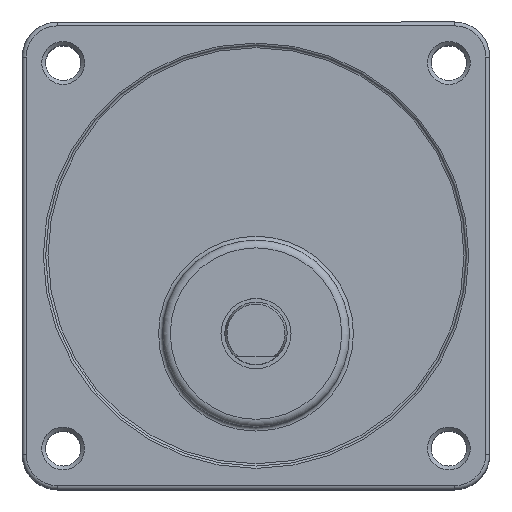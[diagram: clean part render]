
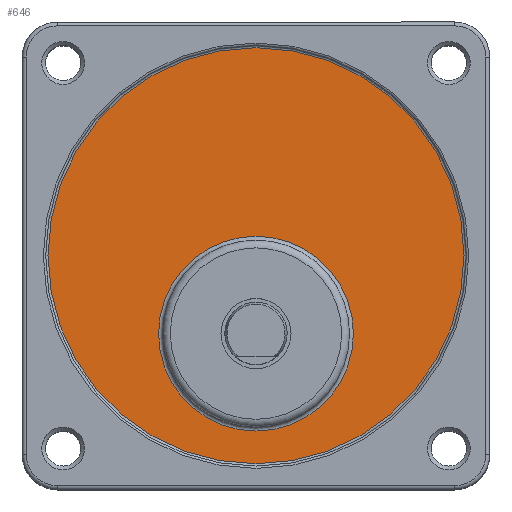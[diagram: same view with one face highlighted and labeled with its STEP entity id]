
A CAD part, top view. The second image highlights one B-rep face of the part: STEP entity #646.
In plain terms, the highlighted planar face has unit normal (0, 0, 1).
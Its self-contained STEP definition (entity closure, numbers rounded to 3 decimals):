
#595=CARTESIAN_POINT('',(42.5,20.0,39.2));
#596=VERTEX_POINT('',#595);
#597=CARTESIAN_POINT('',(30.,20.0,39.2));
#598=DIRECTION('',(0.0,0.0,1.0));
#599=DIRECTION('',(-1.0,0.0,0.0));
#600=AXIS2_PLACEMENT_3D('',#597,#598,#599);
#601=CIRCLE('',#600,12.5);
#602=EDGE_CURVE('',#596,#596,#601,.T.);
#627=CARTESIAN_POINT('',(30.,30.0,39.2));
#628=DIRECTION('',(0.0,0.0,-1.0));
#629=DIRECTION('',(-1.0,0.0,0.0));
#630=AXIS2_PLACEMENT_3D('',#627,#628,#629);
#631=PLANE('',#630);
#632=CARTESIAN_POINT('',(56.699,30.0,39.2));
#633=VERTEX_POINT('',#632);
#634=CARTESIAN_POINT('',(30.,30.0,39.2));
#635=DIRECTION('',(0.0,0.0,-1.0));
#636=DIRECTION('',(-1.0,0.0,0.0));
#637=AXIS2_PLACEMENT_3D('',#634,#635,#636);
#638=CIRCLE('',#637,26.699);
#639=EDGE_CURVE('',#633,#633,#638,.T.);
#640=ORIENTED_EDGE('',*,*,#639,.F.);
#641=EDGE_LOOP('',(#640));
#642=FACE_OUTER_BOUND('',#641,.T.);
#643=ORIENTED_EDGE('',*,*,#602,.F.);
#644=EDGE_LOOP('',(#643));
#645=FACE_BOUND('',#644,.T.);
#646=ADVANCED_FACE('',(#642,#645),#631,.F.);
